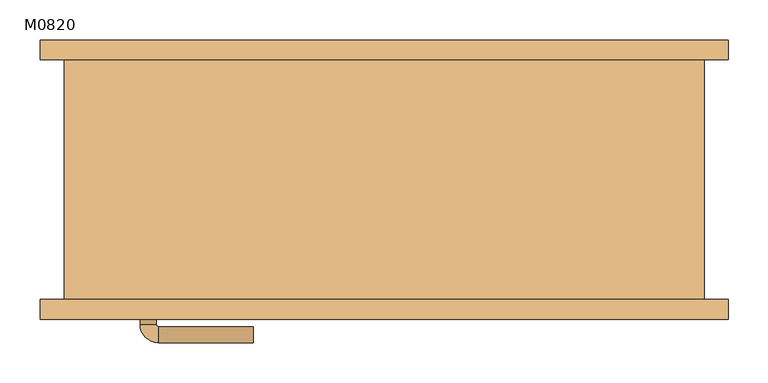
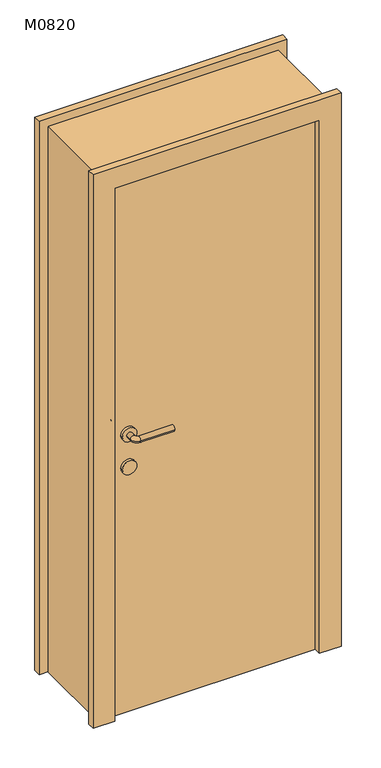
"""IFC4 building model written with IfcOpenShell, lengths in millimetres: door geometry, 单嵌板木门 1 : M0820."""

from ifc_helpers import new_model, si_unit, point, frame, frame_2d, origin, origin_with_axes, place, context, project, spatial, polyline, circle_curve, ellipse_curve, trimmed, segment, composite_curve, outline, extrude, source, transform, mapped, element, save
from ifc_brep_helpers import plane_surface, cylinder_surface, revolved_surface, advanced_brep


def m0820_7395a0fb(model_context):
    return source(origin(), model_context, "Body", "SolidModel", [
        extrude(outline(composite_curve([segment(trimmed(circle_curve(frame_2d((900.0, -295.0)), 25.0), [point((900.0, -270.0))], [point((900.0, -320.0))], False, "CARTESIAN"), True, "CONTINUOUS"), segment(trimmed(circle_curve(frame_2d((900.0, -295.0)), 25.0), [point((900.0, -320.0))], [point((900.0, -270.0))], False, "CARTESIAN"), True, "CONTINUOUS")], self_intersect=False)), frame((0.0, -100.0, 0.0), z_axis=(0.0, 1.0, 0.0), x_axis=(0.0, 0.0, 1.0)), (0.0, 0.0, 1.0), 10.0),
        extrude(outline(composite_curve([segment(trimmed(circle_curve(frame_2d((900.0, -295.0)), 25.0), [point((900.0, -270.0))], [point((900.0, -320.0))], False, "CARTESIAN"), True, "CONTINUOUS"), segment(trimmed(circle_curve(frame_2d((900.0, -295.0)), 25.0), [point((900.0, -320.0))], [point((900.0, -270.0))], False, "CARTESIAN"), True, "CONTINUOUS")], self_intersect=False)), frame((0.0, -160.0, 0.0), z_axis=(0.0, 1.0, 0.0), x_axis=(0.0, 0.0, 1.0)), (0.0, 0.0, 1.0), 10.0),
        advanced_brep(
        [(-305.0, -90.0, 1020.0), (-285.0, -90.0, 1020.0), (-305.0, -69.3866449, 1020.0), (-285.0, -69.3866449, 1020.0), (-163.419036, -46.419036, 1020.0), (-163.419036, -66.419036, 1020.0), (-282.0323911, -66.419036, 1020.0), (-282.0323911, -46.419036, 1020.0)],
        [
            (0, 1, circle_curve(frame((-295.0, -90.0, 1020.0), z_axis=(0.0, -1.0, 0.0), x_axis=(1.0, 0.0, 0.0)), 10.0)),
            (1, 0, circle_curve(frame((-295.0, -90.0, 1020.0), z_axis=(0.0, -1.0, 0.0), x_axis=(1.0, 0.0, 0.0)), 10.0)),
            (0, 2),
            (2, 3, circle_curve(frame((-295.0, -69.3866449, 1020.0), z_axis=(0.0, -1.0, 0.0), x_axis=(1.0, 0.0, 0.0)), 10.0)),
            (3, 1),
            (3, 2, circle_curve(frame((-295.0, -69.3866449, 1020.0), z_axis=(0.0, -1.0, 0.0), x_axis=(1.0, 0.0, 0.0)), 10.0)),
            (4, 5, circle_curve(frame((-163.419036, -56.419036, 1020.0), z_axis=(1.0, 0.0, 0.0), x_axis=(0.0, -1.0, 0.0)), 10.0)),
            (5, 4, circle_curve(frame((-163.419036, -56.419036, 1020.0), z_axis=(1.0, 0.0, 0.0), x_axis=(0.0, -1.0, 0.0)), 10.0)),
            (6, 7, circle_curve(frame((-282.0323911, -56.419036, 1020.0), z_axis=(-1.0, 0.0, 0.0), x_axis=(0.0, -1.0, 0.0)), 10.0)),
            (7, 2, circle_curve(frame((-282.0323911, -69.3866449, 1020.0), z_axis=(0.0, 0.0, 1.0), x_axis=(-1.0, 0.0, 0.0)), 22.9676089)),
            (3, 6, circle_curve(frame((-282.0323911, -69.3866449, 1020.0), z_axis=(0.0, 0.0, -1.0), x_axis=(-1.0, 0.0, 0.0)), 2.9676089)),
            (7, 6, circle_curve(frame((-282.0323911, -56.419036, 1020.0), z_axis=(-1.0, 0.0, 0.0), x_axis=(0.0, -1.0, 0.0)), 10.0)),
            (6, 5),
            (4, 7),
        ],
        [
            plane_surface(frame((-295.0, -90.0, 900.0), z_axis=(0.0, -1.0, 0.0), x_axis=(0.0, 0.0, 1.0))),
            cylinder_surface(frame((-295.0, -90.0, 1020.0), z_axis=(0.0, -1.0, 0.0), x_axis=(1.0, 0.0, 0.0)), 10.0),
            plane_surface(frame((-163.419036, -56.419036, 900.0), z_axis=(1.0, 0.0, 0.0), x_axis=(0.0, 0.0, 1.0))),
            revolved_surface(trimmed(ellipse_curve(frame((-295.0, -69.3866449, 1020.0), z_axis=(0.0, 1.0, 0.0), x_axis=(1.0, 0.0, 0.0)), 10.0, 10.0), [point((-305.0, -69.3866449, 1020.0))], [point((-285.0, -69.3866449, 1020.0))], True, "CARTESIAN"), (-282.0323911, -69.3866449, 900.0), (0.0, 0.0, 1.0)),
            revolved_surface(trimmed(ellipse_curve(frame((-295.0, -69.3866449, 1020.0), z_axis=(0.0, 1.0, 0.0), x_axis=(1.0, 0.0, 0.0)), 10.0, 10.0), [point((-285.0, -69.3866449, 1020.0))], [point((-305.0, -69.3866449, 1020.0))], True, "CARTESIAN"), (-282.0323911, -69.3866449, 900.0), (0.0, 0.0, 1.0)),
            cylinder_surface(frame((-282.0323911, -56.419036, 1020.0), z_axis=(-1.0, 0.0, 0.0), x_axis=(0.0, -1.0, 0.0)), 10.0),
        ],
        [
            (0, [[1, 2]]),
            (1, [[3, 4, 5, -1]]),
            (1, [[-5, 6, -3, -2]]),
            (2, [[7, 8]]),
            (3, [[9, 10, -6, 11]]),
            (4, [[12, -11, -4, -10]]),
            (5, [[13, -7, 14, -9]]),
            (5, [[-14, -8, -13, -12]]),
        ],
    ),
        extrude(outline(composite_curve([segment(trimmed(circle_curve(frame_2d((1020.0, -295.0)), 25.0), [point((1020.0, -270.0))], [point((1020.0, -320.0))], False, "CARTESIAN"), True, "CONTINUOUS"), segment(trimmed(circle_curve(frame_2d((1020.0, -295.0)), 25.0), [point((1020.0, -320.0))], [point((1020.0, -270.0))], False, "CARTESIAN"), True, "CONTINUOUS")], self_intersect=False)), frame((0.0, -100.0, 0.0), z_axis=(0.0, 1.0, 0.0), x_axis=(0.0, 0.0, 1.0)), (0.0, 0.0, 1.0), 10.0),
        advanced_brep(
        [(-285.0, -160.0, 1020.0), (-305.0, -160.0, 1020.0), (-305.0, -180.6133551, 1020.0), (-285.0, -180.6133551, 1020.0), (-163.419036, -183.580964, 1020.0), (-163.419036, -203.580964, 1020.0), (-282.0323911, -203.580964, 1020.0), (-282.0323911, -183.580964, 1020.0)],
        [
            (0, 1, circle_curve(frame((-295.0, -160.0, 1020.0), z_axis=(0.0, 1.0, 0.0), x_axis=(-1.0, 0.0, 0.0)), 10.0)),
            (1, 0, circle_curve(frame((-295.0, -160.0, 1020.0), z_axis=(0.0, 1.0, 0.0), x_axis=(-1.0, 0.0, 0.0)), 10.0)),
            (1, 2),
            (2, 3, circle_curve(frame((-295.0, -180.6133551, 1020.0), z_axis=(0.0, 1.0, 0.0), x_axis=(-1.0, 0.0, 0.0)), 10.0)),
            (3, 0),
            (3, 2, circle_curve(frame((-295.0, -180.6133551, 1020.0), z_axis=(0.0, 1.0, 0.0), x_axis=(-1.0, 0.0, 0.0)), 10.0)),
            (4, 5, circle_curve(frame((-163.419036, -193.580964, 1020.0), z_axis=(1.0, 0.0, 0.0), x_axis=(0.0, -1.0, 0.0)), 10.0)),
            (5, 4, circle_curve(frame((-163.419036, -193.580964, 1020.0), z_axis=(1.0, 0.0, 0.0), x_axis=(0.0, -1.0, 0.0)), 10.0)),
            (6, 7, circle_curve(frame((-282.0323911, -193.580964, 1020.0), z_axis=(-1.0, 0.0, 0.0), x_axis=(0.0, -1.0, 0.0)), 10.0)),
            (7, 3, circle_curve(frame((-282.0323911, -180.6133551, 1020.0), z_axis=(0.0, 0.0, -1.0), x_axis=(-1.0, 0.0, 0.0)), 2.9676089)),
            (2, 6, circle_curve(frame((-282.0323911, -180.6133551, 1020.0), z_axis=(0.0, 0.0, 1.0), x_axis=(-1.0, 0.0, 0.0)), 22.9676089)),
            (7, 6, circle_curve(frame((-282.0323911, -193.580964, 1020.0), z_axis=(-1.0, 0.0, 0.0), x_axis=(0.0, -1.0, 0.0)), 10.0)),
            (6, 5),
            (4, 7),
        ],
        [
            plane_surface(frame((-295.0, -160.0, 900.0), z_axis=(0.0, 1.0, 0.0), x_axis=(0.0, 0.0, 1.0))),
            cylinder_surface(frame((-295.0, -160.0, 1020.0), z_axis=(0.0, 1.0, 0.0), x_axis=(-1.0, 0.0, 0.0)), 10.0),
            plane_surface(frame((-163.419036, -193.580964, 900.0), z_axis=(1.0, 0.0, 0.0), x_axis=(0.0, 0.0, 1.0))),
            revolved_surface(trimmed(ellipse_curve(frame((-295.0, -180.6133551, 1020.0), z_axis=(0.0, -1.0, 0.0), x_axis=(-1.0, 0.0, 0.0)), 10.0, 10.0), [point((-285.0, -180.6133551, 1020.0))], [point((-305.0, -180.6133551, 1020.0))], True, "CARTESIAN"), (-282.0323911, -180.6133551, 900.0), (0.0, 0.0, -1.0)),
            revolved_surface(trimmed(ellipse_curve(frame((-295.0, -180.6133551, 1020.0), z_axis=(0.0, -1.0, 0.0), x_axis=(-1.0, 0.0, 0.0)), 10.0, 10.0), [point((-305.0, -180.6133551, 1020.0))], [point((-285.0, -180.6133551, 1020.0))], True, "CARTESIAN"), (-282.0323911, -180.6133551, 900.0), (0.0, 0.0, -1.0)),
            cylinder_surface(frame((-282.0323911, -193.580964, 1020.0), z_axis=(-1.0, 0.0, 0.0), x_axis=(0.0, -1.0, 0.0)), 10.0),
        ],
        [
            (0, [[1, 2]]),
            (1, [[3, 4, 5, -2]]),
            (1, [[-5, 6, -3, -1]]),
            (2, [[7, 8]]),
            (3, [[9, 10, -4, 11]]),
            (4, [[12, -11, -6, -10]]),
            (5, [[13, -7, 14, -9]]),
            (5, [[-14, -8, -13, -12]]),
        ],
    ),
        extrude(outline(composite_curve([segment(trimmed(circle_curve(frame_2d((1020.0, -295.0)), 25.0), [point((1020.0, -270.0))], [point((1020.0, -320.0))], False, "CARTESIAN"), True, "CONTINUOUS"), segment(trimmed(circle_curve(frame_2d((1020.0, -295.0)), 25.0), [point((1020.0, -320.0))], [point((1020.0, -270.0))], False, "CARTESIAN"), True, "CONTINUOUS")], self_intersect=False)), frame((0.0, -160.0, 0.0), z_axis=(0.0, 1.0, 0.0), x_axis=(0.0, 0.0, 1.0)), (0.0, 0.0, 1.0), 10.0),
        extrude(outline(polyline([(0.0, 430.0), (2030.0, 430.0), (2030.0, -430.0), (0.0, -430.0), (0.0, -355.0), (1955.0, -355.0), (1955.0, 355.0), (0.0, 355.0), (0.0, 430.0)])), frame((0.0, -175.0, 0.0), z_axis=(0.0, 1.0, 0.0), x_axis=(0.0, 0.0, 1.0)), (0.0, 0.0, 1.0), 25.0),
        extrude(outline(polyline([(2030.0, 430.0), (2030.0, -430.0), (0.0, -430.0), (0.0, -355.0), (1955.0, -355.0), (1955.0, 355.0), (0.0, 355.0), (0.0, 430.0), (2030.0, 430.0)])), frame((0.0, 150.0, 0.0), z_axis=(0.0, 1.0, 0.0), x_axis=(0.0, 0.0, 1.0)), (0.0, 0.0, 1.0), 25.0),
        extrude(outline(polyline([(355.0, -100.0), (355.0, -150.0), (-355.0, -150.0), (-355.0, -100.0), (355.0, -100.0)])), origin_with_axes(), (0.0, 0.0, 1.0), 1955.0),
        extrude(outline(polyline([(2000.0, -400.0), (0.0, -400.0), (0.0, -355.0), (1955.0, -355.0), (1955.0, 355.0), (0.0, 355.0), (0.0, 400.0), (2000.0, 400.0), (2000.0, -400.0)])), frame((0.0, -150.0, 0.0), z_axis=(0.0, 1.0, 0.0), x_axis=(0.0, 0.0, 1.0)), (0.0, 0.0, 1.0), 300.0),
    ])


if __name__ == "__main__":
    model = new_model("IFC4")
    model_context = context("Model", 3, world=origin())
    ifc_project = project(units=[si_unit("LENGTHUNIT", "METRE", prefix="MILLI")], contexts=[model_context])
    site = spatial("IfcSite", under=ifc_project)
    building = spatial("IfcBuilding", under=site)
    placement = place(None, origin())
    m0820_shape = m0820_7395a0fb(model_context)
    element("IfcDoor", 1, ObjectType="单嵌板木门 1 : M0820", at=placement, inside=building, context=model_context, shape_type="MappedRepresentation", body=[
        mapped(m0820_shape, transform((0.0, 0.0, 0.0), x_axis=(1.0, 0.0, 0.0), y_axis=(0.0, 1.0, 0.0), z_axis=(0.0, 0.0, 1.0))),
    ])
    save(model, "model.ifc")
